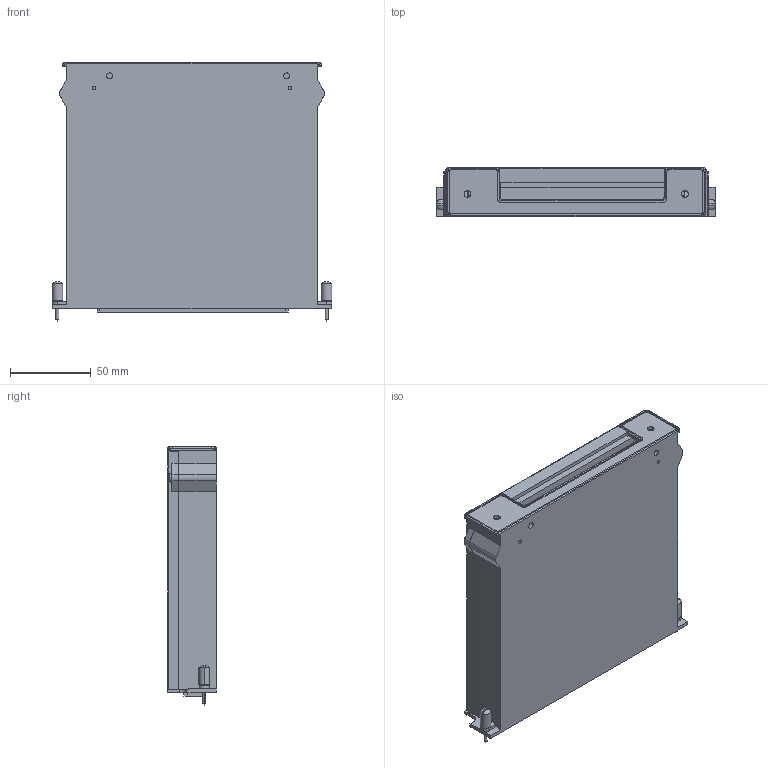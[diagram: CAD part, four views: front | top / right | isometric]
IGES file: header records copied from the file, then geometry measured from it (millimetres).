
Start section:  PTC IGES file: cu_tb-1334.igs
Global section: file name: cu_tb-1334.igs; native system: Pro/ENGINEER by Parametric Technology Corporation; preprocessor: 2010230; author: jjorden; organization: Unknown; date: 20110815.143531; units: inch
Bounding box: 173.53 x 30.18 x 160.21 mm (x, y, z)
Surface area: 140357.3 mm2 (no closed solid volume)
Topology: 0 solids, 0 shells, 525 faces, 2844 edges, 2816 vertices
Faces by surface type: bspline 341, revolution 184
